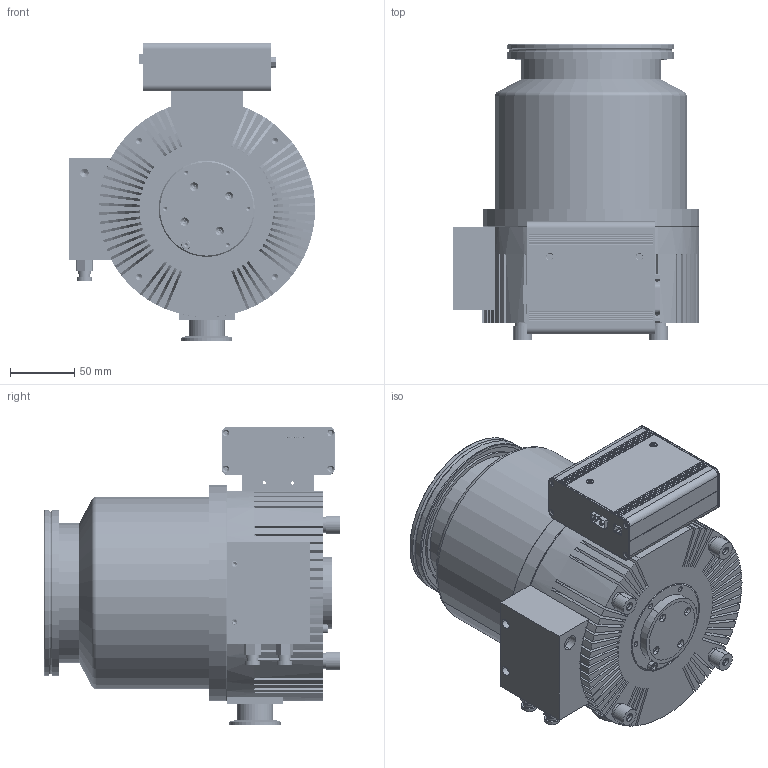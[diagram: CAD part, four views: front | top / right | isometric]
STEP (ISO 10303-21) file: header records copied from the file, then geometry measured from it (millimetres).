
FILE_DESCRIPTION (( 'STEP AP214' ), '1' );
FILE_NAME ('JTFB300阨濮珨极.STEP', '2026-02-05T04:00:10', ( '' ), ( '' ), 'SwSTEP 2.0', 'SolidWorks 2023', '' );
FILE_SCHEMA (( 'AUTOMOTIVE_DESIGN' ));
Length unit declared in the file: millimetre
Products named in the file (34): MP24D-BR2.03______1.STEP; 300水冷体25-11-8; MP24D-BR2.05________1.STEP; hexagon socket head cap screws gb_GB_FASTENER_SCREWS_HSHCS M4X6-N; JTFB300Z后座25-4-125-4-28; JTFB300S-02A-25-4-125-4-28; JTFB300-23-25-4-125-4-28; MP24D-BR2.06______1.STEP; 3.96-3P_______1.STEP; JTFB300-20-25-4-125-4-28; 零件36; PCBA_ITF_____1.STEP; MP24D-BR2.04______1.STEP; MP24D-BR2.02_______.STEP; PCBA_IFT_BR2_1.STEP; JTFB300J-05-00铝25-4-28; DB15 ___1.STEP; JTFB300-14A-25-4-125-4-28; 55ZWX40转子-25-4-125-4-28; M3x10 ________ _1.STEP; PCBA BR2 _____1.STEP; JTFB300-21FLDK25-4-125-4-28; JTFB-300底盖25-4-125-4-28; 零件35; 电源接头MX15-8--25-4-125-4-28; MP24D-BR2.01________1.STEP; JTFB-300同步电源固定板--2-25-4-28; ____ _____1.STEP; MP24D-BR2_装配体_1.STEP; 一分快换插头; 300一体电源25-8-14; JTFB-300同步电源固定板5-4-28; JTFB300水冷一体; ________ M2.5x6_1.STEP
Assembly tree (44 placements, depth 5):
  JTFB300水冷一体
    JTFB300S-02A-25-4-125-4-28
    JTFB300-14A-25-4-125-4-28
    JTFB300-23-25-4-125-4-28
    JTFB300J-05-00铝25-4-28
    55ZWX40转子-25-4-125-4-28
    300一体电源25-8-14
      MP24D-BR2_装配体_1.STEP
        PCBA_ITF_____1.STEP
          PCBA_IFT_BR2_1.STEP
          3.96-3P_______1.STEP
          ____ _____1.STEP
        PCBA BR2 _____1.STEP
          DB15 ___1.STEP
        MP24D-BR2.01________1.STEP
        MP24D-BR2.04______1.STEP
        MP24D-BR2.03______1.STEP
        MP24D-BR2.02_______.STEP
        MP24D-BR2.05________1.STEP
        MP24D-BR2.06______1.STEP
        ________ M2.5x6_1.STEP  x2
        M3x10 ________ _1.STEP  x4
      零件35
      零件36
    电源接头MX15-8--25-4-125-4-28
    JTFB-300同步电源固定板5-4-28
    JTFB-300同步电源固定板--2-25-4-28
    JTFB300Z后座25-4-125-4-28
    JTFB-300底盖25-4-125-4-28
    JTFB300-21FLDK25-4-125-4-28  x4
    JTFB300-20-25-4-125-4-28  x4
    hexagon socket head cap screws gb_GB_FASTENER_SCREWS_HSHCS M4X6-N
    一分快换插头  x2
    300水冷体25-11-8
Bounding box: 192 x 230.8 x 233.18 mm (x, y, z)
Volume: 2091060.5 mm3; surface area: 584910.4 mm2
Topology: 49 solids, 65 shells, 2860 faces, 7544 edges, 4828 vertices
Faces by surface type: cylinder 1258, plane 777, bspline 451, cone 352, torus 22
Entity records: 225302 total; most frequent: CARTESIAN_POINT 164569, ORIENTED_EDGE 13754, DIRECTION 10823, EDGE_CURVE 6892, VERTEX_POINT 4515, AXIS2_PLACEMENT_3D 3996, EDGE_LOOP 3060, LINE 2831
